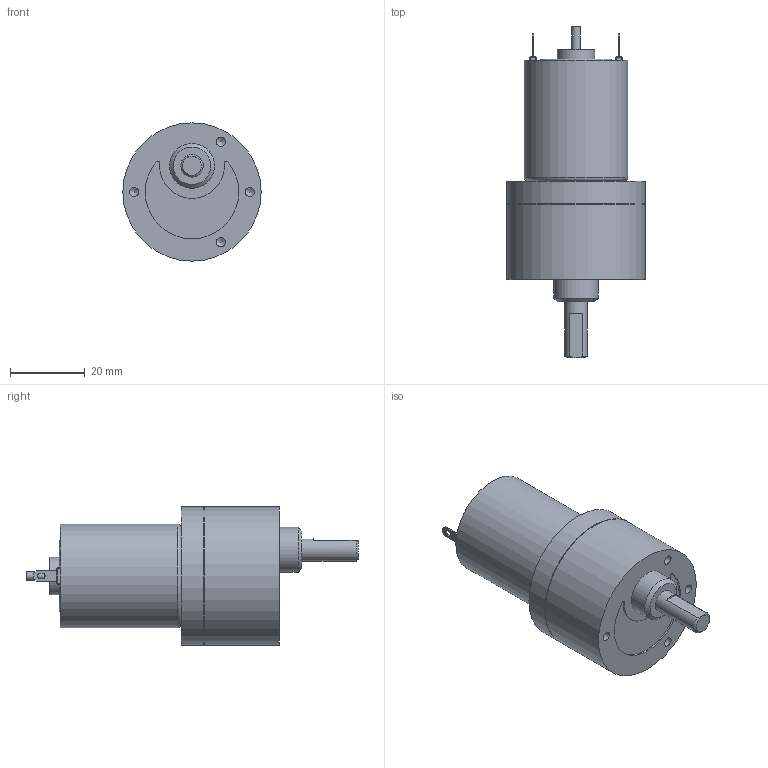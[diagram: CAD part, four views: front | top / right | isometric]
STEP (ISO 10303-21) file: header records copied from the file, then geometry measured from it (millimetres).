
FILE_DESCRIPTION((''),'2;1');
FILE_NAME('C:\Documents and Settings\SSEGAWA\デスクトップ\TP-2732D-HM-3.STP','2013-07-01T11:41:52',('SSEGAWA'),(''),'Autodesk Inventor 2010','Autodesk Inventor 2010','');
FILE_SCHEMA(('CONFIG_CONTROL_DESIGN'));
Length unit declared in the file: millimetre
Products named in the file (3): tp_2732def_hm_3; hm_3; tp_2732d,e,f
Assembly tree (2 placements, depth 2):
  tp_2732def_hm_3
    hm_3
    tp_2732d,e,f
Bounding box: 37 x 88.8 x 37 mm (x, y, z)
Volume: 48914.1 mm3; surface area: 10471.6 mm2
Topology: 2 solids, 2 shells, 147 faces, 323 edges, 206 vertices
Faces by surface type: plane 85, cylinder 35, bspline 21, torus 4, cone 2
Full cylindrical faces by diameter (mm): 2 x2, 2.305 x2, 2.5 x5, 6 x1, 9 x2, 10 x2, 12 x1, 19 x1, 26.7 x1, 27.7 x1, 36.6 x1, 37 x2
Entity records: 3949 total; most frequent: CARTESIAN_POINT 874, DIRECTION 629, ORIENTED_EDGE 538, EDGE_CURVE 269, AXIS2_PLACEMENT_3D 231, EDGE_LOOP 215, VERTEX_POINT 190, VECTOR 167
